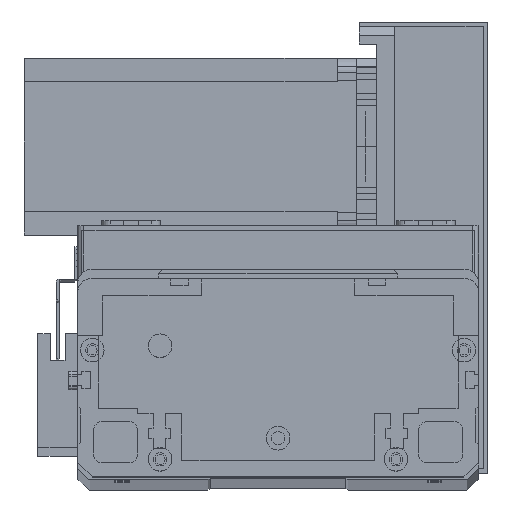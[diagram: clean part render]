
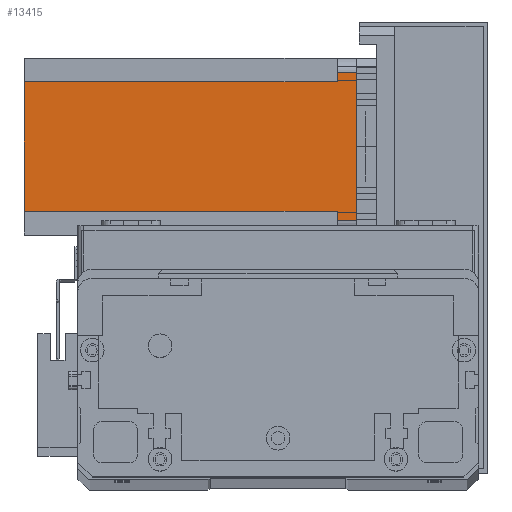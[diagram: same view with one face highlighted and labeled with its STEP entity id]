
A CAD part, top view. The second image highlights one B-rep face of the part: STEP entity #13415.
In plain terms, the highlighted planar face has unit normal (0, 0, 1) as drawn and (0, 1, 0) by its records, which use the part's own axes.
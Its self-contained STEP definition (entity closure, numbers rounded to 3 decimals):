
#1242 = CARTESIAN_POINT ( 'NONE',  ( 5., 60., -6.5 ) ) ;
#1393 = EDGE_CURVE ( 'NONE', #10398, #5117, #8711, .T. ) ;
#1510 = CARTESIAN_POINT ( 'NONE',  ( 55., 60., 0. ) ) ;
#1966 = CARTESIAN_POINT ( 'NONE',  ( 55., 60., -112.5 ) ) ;
#3043 = VECTOR ( 'NONE', #24431, 1000. ) ;
#3198 = ORIENTED_EDGE ( 'NONE', *, *, #1393, .T. ) ;
#3673 = CARTESIAN_POINT ( 'NONE',  ( 52., 60., -112.5 ) ) ;
#3832 = CARTESIAN_POINT ( 'NONE',  ( 8., 60., -6.5 ) ) ;
#4247 = DIRECTION ( 'NONE',  ( 1., 0., 0. ) ) ;
#5117 = VERTEX_POINT ( 'NONE', #27193 ) ;
#5309 = ORIENTED_EDGE ( 'NONE', *, *, #8641, .F. ) ;
#5884 = DIRECTION ( 'NONE',  ( -1., 0., 0. ) ) ;
#5957 = DIRECTION ( 'NONE',  ( 0., 0., -1. ) ) ;
#6651 = CARTESIAN_POINT ( 'NONE',  ( 55., 60., -6.5 ) ) ;
#6738 = VECTOR ( 'NONE', #4247, 1000. ) ;
#7505 = LINE ( 'NONE', #13504, #6738 ) ;
#7898 = EDGE_CURVE ( 'NONE', #12731, #15173, #14487, .T. ) ;
#8377 = CARTESIAN_POINT ( 'NONE',  ( 5., 60., 0. ) ) ;
#8641 = EDGE_CURVE ( 'NONE', #15311, #14666, #16956, .T. ) ;
#8711 = LINE ( 'NONE', #15222, #15506 ) ;
#10354 = VERTEX_POINT ( 'NONE', #6651 ) ;
#10398 = VERTEX_POINT ( 'NONE', #3673 ) ;
#10738 = DIRECTION ( 'NONE',  ( 0., 0., 1. ) ) ;
#11381 = CARTESIAN_POINT ( 'NONE',  ( 8., 60., -6.5 ) ) ;
#12088 = ORIENTED_EDGE ( 'NONE', *, *, #24357, .T. ) ;
#12731 = VERTEX_POINT ( 'NONE', #11381 ) ;
#12813 = VECTOR ( 'NONE', #5957, 1000. ) ;
#13186 = ORIENTED_EDGE ( 'NONE', *, *, #14054, .F. ) ;
#13415 = ADVANCED_FACE ( 'NONE', ( #18605 ), #27916, .T. ) ;
#13504 = CARTESIAN_POINT ( 'NONE',  ( 52., 60., -6.5 ) ) ;
#14014 = ORIENTED_EDGE ( 'NONE', *, *, #24785, .T. ) ;
#14054 = EDGE_CURVE ( 'NONE', #10398, #26121, #14199, .T. ) ;
#14199 = LINE ( 'NONE', #18029, #20402 ) ;
#14487 = LINE ( 'NONE', #3832, #25968 ) ;
#14509 = ORIENTED_EDGE ( 'NONE', *, *, #18786, .F. ) ;
#14666 = VERTEX_POINT ( 'NONE', #8377 ) ;
#14849 = DIRECTION ( 'NONE',  ( -1., 0., 0. ) ) ;
#15173 = VERTEX_POINT ( 'NONE', #1242 ) ;
#15222 = CARTESIAN_POINT ( 'NONE',  ( 0., 60., -112.5 ) ) ;
#15275 = ORIENTED_EDGE ( 'NONE', *, *, #21077, .F. ) ;
#15311 = VERTEX_POINT ( 'NONE', #1510 ) ;
#15506 = VECTOR ( 'NONE', #14849, 1000. ) ;
#16956 = LINE ( 'NONE', #26183, #3043 ) ;
#17456 = CARTESIAN_POINT ( 'NONE',  ( 5., 60., -112.5 ) ) ;
#17508 = LINE ( 'NONE', #17456, #28206 ) ;
#18029 = CARTESIAN_POINT ( 'NONE',  ( 52., 60., -112.5 ) ) ;
#18483 = DIRECTION ( 'NONE',  ( 0., 0., 1. ) ) ;
#18605 = FACE_OUTER_BOUND ( 'NONE', #21308, .T. ) ;
#18654 = CARTESIAN_POINT ( 'NONE',  ( 52., 60., -6.5 ) ) ;
#18786 = EDGE_CURVE ( 'NONE', #26121, #10354, #7505, .T. ) ;
#20402 = VECTOR ( 'NONE', #18483, 1000. ) ;
#20804 = VECTOR ( 'NONE', #25300, 1000. ) ;
#21077 = EDGE_CURVE ( 'NONE', #12731, #5117, #25037, .T. ) ;
#21308 = EDGE_LOOP ( 'NONE', ( #5309, #12088, #14509, #13186, #3198, #15275, #24076, #14014 ) ) ;
#21644 = AXIS2_PLACEMENT_3D ( 'NONE', #27733, #27707, #27683 ) ;
#22213 = CARTESIAN_POINT ( 'NONE',  ( 8., 60., -112.5 ) ) ;
#24076 = ORIENTED_EDGE ( 'NONE', *, *, #7898, .T. ) ;
#24357 = EDGE_CURVE ( 'NONE', #15311, #10354, #26827, .T. ) ;
#24431 = DIRECTION ( 'NONE',  ( -1., 0., 0. ) ) ;
#24785 = EDGE_CURVE ( 'NONE', #15173, #14666, #17508, .T. ) ;
#25037 = LINE ( 'NONE', #22213, #12813 ) ;
#25300 = DIRECTION ( 'NONE',  ( 0., 0., -1. ) ) ;
#25968 = VECTOR ( 'NONE', #5884, 1000. ) ;
#26121 = VERTEX_POINT ( 'NONE', #18654 ) ;
#26183 = CARTESIAN_POINT ( 'NONE',  ( 0., 60., 0. ) ) ;
#26827 = LINE ( 'NONE', #1966, #20804 ) ;
#27193 = CARTESIAN_POINT ( 'NONE',  ( 8., 60., -112.5 ) ) ;
#27683 = DIRECTION ( 'NONE',  ( 0., 0., 1. ) ) ;
#27707 = DIRECTION ( 'NONE',  ( 0., 1., 0. ) ) ;
#27733 = CARTESIAN_POINT ( 'NONE',  ( 0., 60., -112.5 ) ) ;
#27916 = PLANE ( 'NONE',  #21644 ) ;
#28206 = VECTOR ( 'NONE', #10738, 1000. ) ;
